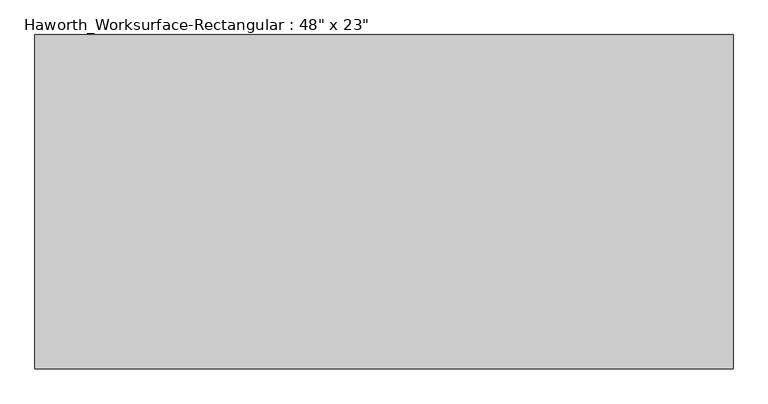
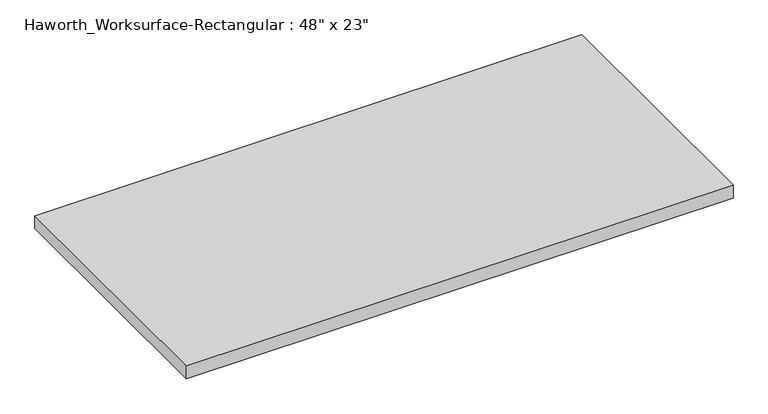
"""IFC4 building model written with IfcOpenShell, lengths in millimetres: furniture geometry."""

from ifc_helpers import new_model, si_unit, frame, origin, place, context, project, spatial, polyline, outline, extrude, source, transform, mapped, element, save


def furniture_e7f15b33(model_context):
    return source(origin(), model_context, "Body", "SweptSolid", [
        extrude(outline(polyline([(609.6, -292.1), (-609.6, -292.1), (-609.6, 292.1), (609.6, 292.1), (609.6, -292.1)])), frame((0.0, 0.0, 706.4375), z_axis=(0.0, 0.0, 1.0), x_axis=(1.0, 0.0, 0.0)), (0.0, 0.0, 1.0), 30.1625),
    ])


if __name__ == "__main__":
    model = new_model("IFC4")
    model_context = context("Model", 3, world=origin())
    ifc_project = project(units=[si_unit("LENGTHUNIT", "METRE", prefix="MILLI")], contexts=[model_context])
    site = spatial("IfcSite", under=ifc_project)
    building = spatial("IfcBuilding", under=site)
    placement = place(None, origin())
    furniture_shape = furniture_e7f15b33(model_context)
    element("IfcFurniture", 1, ObjectType="Haworth_Worksurface-Rectangular : 48\" x 23\"", at=placement, inside=building, context=model_context, shape_type="MappedRepresentation", body=[
        mapped(furniture_shape, transform((0.0, 0.0, 0.0), x_axis=(1.0, 0.0, 0.0), y_axis=(0.0, 1.0, 0.0), z_axis=(0.0, 0.0, 1.0))),
    ])
    save(model, "model.ifc")
